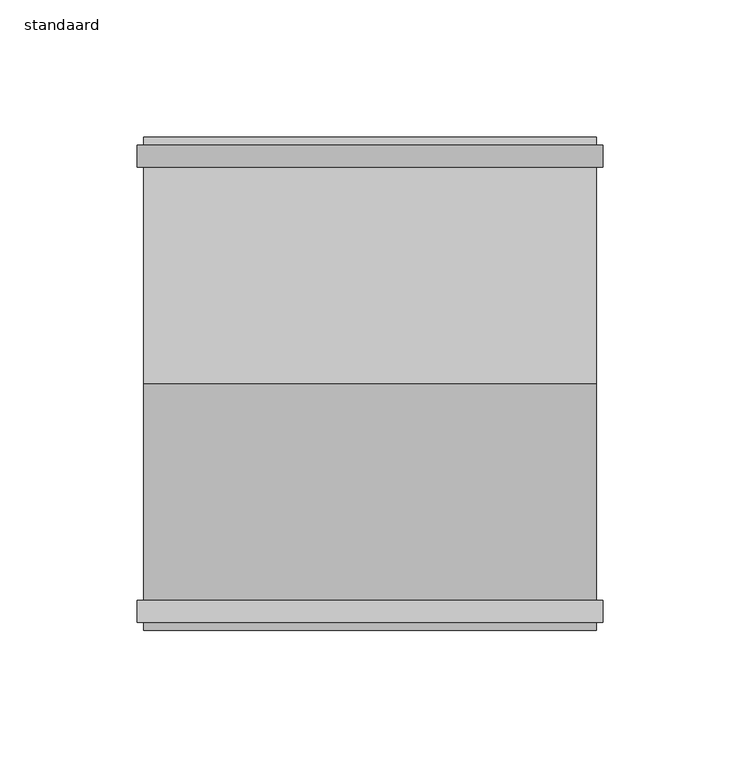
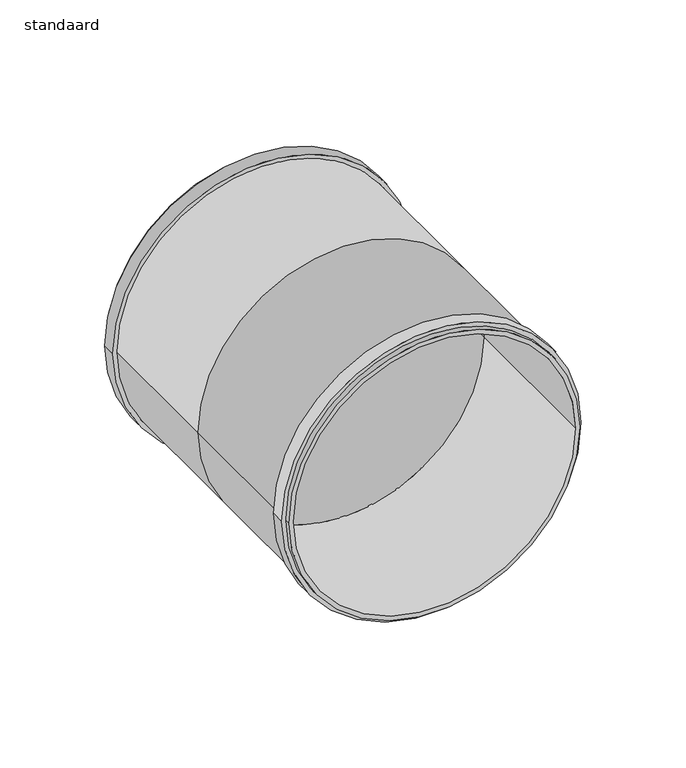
"""IFC4 building model written with IfcOpenShell, lengths in millimetres: pipe fitting geometry, 400_52_Dyka_PP_Dykastil_overschuifmof : standaard."""

from ifc_helpers import new_model, si_unit, point, frame, origin, origin_2d, place, context, project, spatial, polyline, circle_curve, trimmed, segment, composite_curve, outline, extrude, source, transform, mapped, element, save
from ifc_brep_helpers import plane_surface, cylinder_surface, revolved_surface, advanced_brep


def standaard_1ae9f93e(model_context):
    return source(origin(), model_context, "Body", "SolidModel", [
        advanced_brep(
        [(82.5, 90.0, 0.0), (-82.5, 90.0, 0.0), (80.0, 90.0, 0.0), (-80.0, 90.0, 0.0), (-80.0, 0.0, 0.0), (80.0, 0.0, 0.0), (-82.5, 0.0, 0.0), (82.5, 0.0, 0.0), (-82.5, -90.0, 0.0), (82.5, -90.0, 0.0), (-80.0, -90.0, 0.0), (80.0, -90.0, 0.0)],
        [
            (0, 1, circle_curve(frame((0.0, 90.0, 0.0), z_axis=(0.0, 1.0, 0.0), x_axis=(-1.0, 0.0, 0.0)), 82.5)),
            (1, 0, circle_curve(frame((0.0, 90.0, 0.0), z_axis=(0.0, 1.0, 0.0), x_axis=(-1.0, 0.0, 0.0)), 82.5)),
            (2, 3, circle_curve(frame((0.0, 90.0, 0.0), z_axis=(0.0, -1.0, 0.0), x_axis=(-1.0, 0.0, 0.0)), 80.0)),
            (3, 2, circle_curve(frame((0.0, 90.0, 0.0), z_axis=(0.0, -1.0, 0.0), x_axis=(-1.0, 0.0, 0.0)), 80.0)),
            (3, 4),
            (4, 5, circle_curve(frame((0.0, 0.0, 0.0), z_axis=(0.0, -1.0, 0.0), x_axis=(-1.0, 0.0, 0.0)), 80.0)),
            (5, 2),
            (5, 4, circle_curve(frame((0.0, 0.0, 0.0), z_axis=(0.0, -1.0, 0.0), x_axis=(-1.0, 0.0, 0.0)), 80.0)),
            (1, 6),
            (6, 7, circle_curve(frame((0.0, 0.0, 0.0), z_axis=(0.0, 1.0, 0.0), x_axis=(-1.0, 0.0, 0.0)), 82.5)),
            (7, 0),
            (7, 6, circle_curve(frame((0.0, 0.0, 0.0), z_axis=(0.0, 1.0, 0.0), x_axis=(-1.0, 0.0, 0.0)), 82.5)),
            (8, 9, circle_curve(frame((0.0, -90.0, 0.0), z_axis=(0.0, -1.0, 0.0), x_axis=(1.0, 0.0, 0.0)), 82.5)),
            (9, 8, circle_curve(frame((0.0, -90.0, 0.0), z_axis=(0.0, -1.0, 0.0), x_axis=(1.0, 0.0, 0.0)), 82.5)),
            (10, 11, circle_curve(frame((0.0, -90.0, 0.0), z_axis=(0.0, 1.0, 0.0), x_axis=(1.0, 0.0, 0.0)), 80.0)),
            (11, 10, circle_curve(frame((0.0, -90.0, 0.0), z_axis=(0.0, 1.0, 0.0), x_axis=(1.0, 0.0, 0.0)), 80.0)),
            (11, 5),
            (4, 10),
            (9, 7),
            (6, 8),
        ],
        [
            plane_surface(frame((0.0, 90.0, 0.0), z_axis=(0.0, 1.0, 0.0), x_axis=(0.0, 0.0, 1.0))),
            revolved_surface(polyline([(-80.0, 90.0, 0.0), (-80.0, 0.0, 0.0)]), (0.0, 0.0, 0.0), (0.0, 1.0, 0.0)),
            cylinder_surface(frame((0.0, 0.0, 0.0), z_axis=(0.0, -1.0, 0.0), x_axis=(-1.0, 0.0, 0.0)), 82.5),
            plane_surface(frame((0.0, -90.0, 0.0), z_axis=(0.0, -1.0, 0.0), x_axis=(0.0, 0.0, 1.0))),
            revolved_surface(polyline([(80.0, -90.0, 0.0), (80.0, 0.0, 0.0)]), (0.0, 0.0, 0.0), (0.0, -1.0, 0.0)),
            cylinder_surface(frame((0.0, 0.0, 0.0), z_axis=(0.0, 1.0, 0.0), x_axis=(1.0, 0.0, 0.0)), 82.5),
        ],
        [
            (0, [[1, 2], [3, 4]]),
            (1, [[-4, 5, 6, 7]]),
            (1, [[-3, -7, 8, -5]]),
            (2, [[-2, 9, 10, 11]]),
            (2, [[-1, -11, 12, -9]]),
            (3, [[13, 14], [15, 16]]),
            (4, [[-16, 17, -6, 18]]),
            (4, [[-15, -18, -8, -17]]),
            (5, [[-14, 19, -10, 20]]),
            (5, [[-13, -20, -12, -19]]),
        ],
    ),
        extrude(outline(composite_curve([segment(trimmed(circle_curve(origin_2d(), 85.0), [point((0.0, 85.0))], [point((0.0, -85.0))], False, "CARTESIAN"), True, "CONTINUOUS"), segment(trimmed(circle_curve(origin_2d(), 85.0), [point((0.0, -85.0))], [point((0.0, 85.0))], False, "CARTESIAN"), True, "CONTINUOUS")], self_intersect=False), holes=[composite_curve([segment(trimmed(circle_curve(origin_2d(), 82.5), [point((0.0, 82.5))], [point((0.0, -82.5))], True, "CARTESIAN"), True, "CONTINUOUS"), segment(trimmed(circle_curve(origin_2d(), 82.5), [point((0.0, -82.5))], [point((0.0, 82.5))], True, "CARTESIAN"), True, "CONTINUOUS")], self_intersect=False)]), frame((0.0, -87.0, 0.0), z_axis=(0.0, 1.0, 0.0), x_axis=(0.0, 0.0, 1.0)), (0.0, 0.0, 1.0), 8.0),
        extrude(outline(composite_curve([segment(trimmed(circle_curve(origin_2d(), 85.0), [point((0.0, -85.0))], [point((0.0, 85.0))], False, "CARTESIAN"), True, "CONTINUOUS"), segment(trimmed(circle_curve(origin_2d(), 85.0), [point((0.0, 85.0))], [point((0.0, -85.0))], False, "CARTESIAN"), True, "CONTINUOUS")], self_intersect=False), holes=[composite_curve([segment(trimmed(circle_curve(origin_2d(), 82.5), [point((0.0, -82.5))], [point((0.0, 82.5))], True, "CARTESIAN"), True, "CONTINUOUS"), segment(trimmed(circle_curve(origin_2d(), 82.5), [point((0.0, 82.5))], [point((0.0, -82.5))], True, "CARTESIAN"), True, "CONTINUOUS")], self_intersect=False)]), frame((0.0, 79.0, 0.0), z_axis=(0.0, 1.0, 0.0), x_axis=(0.0, 0.0, 1.0)), (0.0, 0.0, 1.0), 8.0),
    ])


if __name__ == "__main__":
    model = new_model("IFC4")
    model_context = context("Model", 3, world=origin())
    ifc_project = project(units=[si_unit("LENGTHUNIT", "METRE", prefix="MILLI")], contexts=[model_context])
    site = spatial("IfcSite", under=ifc_project)
    building = spatial("IfcBuilding", under=site)
    placement = place(None, origin())
    standaard_shape = standaard_1ae9f93e(model_context)
    element("IfcPipeFitting", 1, ObjectType="400_52_Dyka_PP_Dykastil_overschuifmof : standaard", at=placement, inside=building, context=model_context, shape_type="MappedRepresentation", body=[
        mapped(standaard_shape, transform((0.0, 0.0, 0.0), x_axis=(1.0, 0.0, 0.0), y_axis=(0.0, 1.0, 0.0), z_axis=(0.0, 0.0, 1.0))),
    ])
    save(model, "model.ifc")
